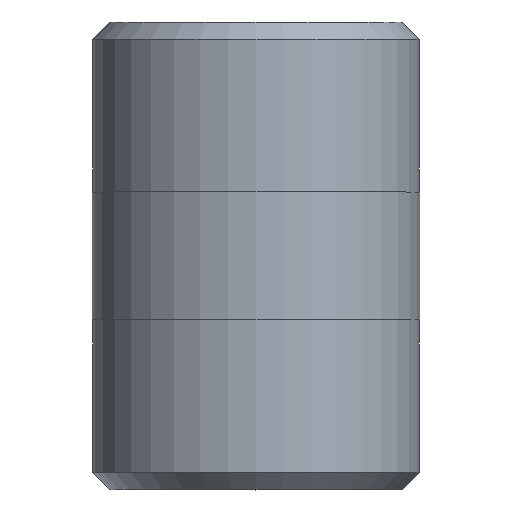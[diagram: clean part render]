
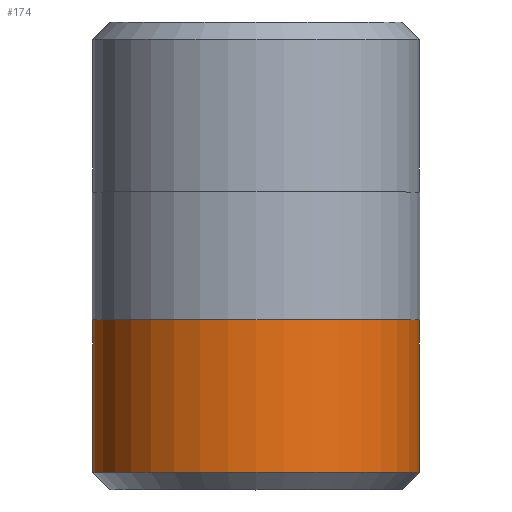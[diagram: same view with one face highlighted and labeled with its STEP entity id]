
A CAD part, top view. The second image highlights one B-rep face of the part: STEP entity #174.
In plain terms, the highlighted cylindrical face has radius 13.31 mm (diameter 26.619 mm), a full revolution.
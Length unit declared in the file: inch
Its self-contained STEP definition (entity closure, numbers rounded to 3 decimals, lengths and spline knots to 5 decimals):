
#23=CYLINDRICAL_SURFACE('',#201,0.524);
#28=FACE_OUTER_BOUND('',#38,.T.);
#38=EDGE_LOOP('',(#128,#129,#130,#131,#132,#133));
#52=LINE('',#300,#58);
#58=VECTOR('',#238,0.524);
#64=CIRCLE('',#199,0.524);
#65=CIRCLE('',#200,0.524);
#66=CIRCLE('',#202,0.524);
#67=CIRCLE('',#203,0.524);
#82=VERTEX_POINT('',#293);
#83=VERTEX_POINT('',#295);
#84=VERTEX_POINT('',#299);
#85=VERTEX_POINT('',#301);
#101=EDGE_CURVE('',#82,#83,#64,.T.);
#102=EDGE_CURVE('',#83,#82,#65,.T.);
#103=EDGE_CURVE('',#83,#84,#52,.T.);
#104=EDGE_CURVE('',#84,#85,#66,.T.);
#105=EDGE_CURVE('',#85,#84,#67,.T.);
#128=ORIENTED_EDGE('',*,*,#101,.F.);
#129=ORIENTED_EDGE('',*,*,#102,.F.);
#130=ORIENTED_EDGE('',*,*,#103,.T.);
#131=ORIENTED_EDGE('',*,*,#104,.T.);
#132=ORIENTED_EDGE('',*,*,#105,.T.);
#133=ORIENTED_EDGE('',*,*,#103,.F.);
#174=ADVANCED_FACE('',(#28),#23,.T.);
#199=AXIS2_PLACEMENT_3D('',#296,#232,#233);
#200=AXIS2_PLACEMENT_3D('',#297,#234,#235);
#201=AXIS2_PLACEMENT_3D('',#298,#236,#237);
#202=AXIS2_PLACEMENT_3D('',#302,#239,#240);
#203=AXIS2_PLACEMENT_3D('',#303,#241,#242);
#232=DIRECTION('center_axis',(0.,-1.,0.));
#233=DIRECTION('ref_axis',(0.,0.,1.));
#234=DIRECTION('center_axis',(0.,-1.,0.));
#235=DIRECTION('ref_axis',(0.,0.,1.));
#236=DIRECTION('center_axis',(0.,-1.,0.));
#237=DIRECTION('ref_axis',(0.,0.,-1.));
#238=DIRECTION('',(0.,1.,0.));
#239=DIRECTION('center_axis',(0.,-1.,0.));
#240=DIRECTION('ref_axis',(1.,0.,0.));
#241=DIRECTION('center_axis',(0.,-1.,0.));
#242=DIRECTION('ref_axis',(1.,0.,0.));
#293=CARTESIAN_POINT('',(0.,0.055,-0.524));
#295=CARTESIAN_POINT('',(0.,0.055,0.524));
#296=CARTESIAN_POINT('Origin',(0.,0.055,0.));
#297=CARTESIAN_POINT('Origin',(0.,0.055,0.));
#298=CARTESIAN_POINT('Origin',(0.,0.2725,0.));
#299=CARTESIAN_POINT('',(0.,0.545,0.524));
#300=CARTESIAN_POINT('',(0.,0.2725,0.524));
#301=CARTESIAN_POINT('',(0.,0.545,-0.524));
#302=CARTESIAN_POINT('Origin',(0.,0.545,0.));
#303=CARTESIAN_POINT('Origin',(0.,0.545,0.));
